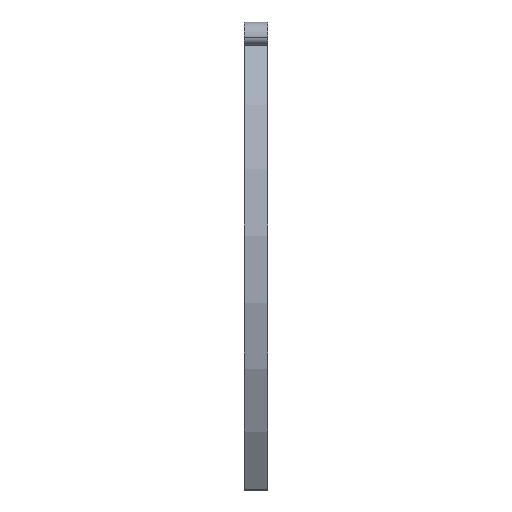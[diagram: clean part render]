
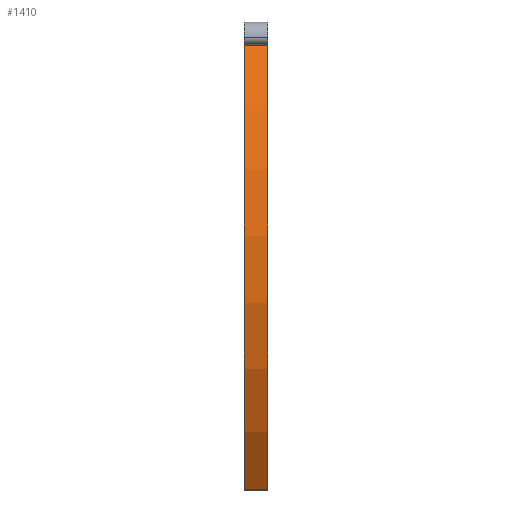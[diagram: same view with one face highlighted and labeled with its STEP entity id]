
A CAD part, front view. The second image highlights one B-rep face of the part: STEP entity #1410.
In plain terms, the highlighted cylindrical face has radius 52.921 mm (diameter 105.841 mm), a partial arc.
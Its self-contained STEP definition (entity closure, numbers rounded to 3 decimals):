
#522 = VERTEX_POINT ( 'NONE', #3814 ) ;
#566 = AXIS2_PLACEMENT_3D ( 'NONE', #2500, #3438, #2516 ) ;
#683 = CARTESIAN_POINT ( 'NONE',  ( 60.16, -27.922, 58. ) ) ;
#951 = FACE_OUTER_BOUND ( 'NONE', #2821, .T. ) ;
#954 = ORIENTED_EDGE ( 'NONE', *, *, #3771, .F. ) ;
#986 = ORIENTED_EDGE ( 'NONE', *, *, #3922, .T. ) ;
#1099 = CYLINDRICAL_SURFACE ( 'NONE', #566, 52.921 ) ;
#1110 = DIRECTION ( 'NONE',  ( -1., 0., 0. ) ) ;
#1113 = AXIS2_PLACEMENT_3D ( 'NONE', #3765, #3808, #2573 ) ;
#1330 = VECTOR ( 'NONE', #3186, 1000. ) ;
#1410 = ADVANCED_FACE ( 'NONE', ( #951 ), #1099, .T. ) ;
#1435 = DIRECTION ( 'NONE',  ( 1., 0., 0. ) ) ;
#1610 = VERTEX_POINT ( 'NONE', #683 ) ;
#1878 = VERTEX_POINT ( 'NONE', #3240 ) ;
#1887 = CARTESIAN_POINT ( 'NONE',  ( 60.16, -25.955, 0. ) ) ;
#2336 = VECTOR ( 'NONE', #1110, 1000. ) ;
#2340 = CARTESIAN_POINT ( 'NONE',  ( 60.16, 17.292, 30.5 ) ) ;
#2354 = DIRECTION ( 'NONE',  ( 0., 0., -1. ) ) ;
#2438 = ORIENTED_EDGE ( 'NONE', *, *, #3296, .T. ) ;
#2500 = CARTESIAN_POINT ( 'NONE',  ( 63.16, 17.292, 30.5 ) ) ;
#2516 = DIRECTION ( 'NONE',  ( 0., 0., 1. ) ) ;
#2570 = CARTESIAN_POINT ( 'NONE',  ( 63.16, -27.922, 58. ) ) ;
#2573 = DIRECTION ( 'NONE',  ( 0., 0., -1. ) ) ;
#2645 = CARTESIAN_POINT ( 'NONE',  ( 63.16, -25.955, 0. ) ) ;
#2821 = EDGE_LOOP ( 'NONE', ( #986, #3187, #954, #2438 ) ) ;
#2945 = AXIS2_PLACEMENT_3D ( 'NONE', #2340, #1435, #2354 ) ;
#3003 = CIRCLE ( 'NONE', #1113, 52.921 ) ;
#3147 = LINE ( 'NONE', #2645, #2336 ) ;
#3186 = DIRECTION ( 'NONE',  ( -1., 0., 0. ) ) ;
#3187 = ORIENTED_EDGE ( 'NONE', *, *, #3962, .F. ) ;
#3240 = CARTESIAN_POINT ( 'NONE',  ( 63.16, -25.955, 0. ) ) ;
#3296 = EDGE_CURVE ( 'NONE', #522, #1610, #3441, .T. ) ;
#3438 = DIRECTION ( 'NONE',  ( -1., 0., 0. ) ) ;
#3441 = LINE ( 'NONE', #2570, #1330 ) ;
#3690 = VERTEX_POINT ( 'NONE', #1887 ) ;
#3765 = CARTESIAN_POINT ( 'NONE',  ( 63.16, 17.292, 30.5 ) ) ;
#3771 = EDGE_CURVE ( 'NONE', #522, #1878, #3003, .T. ) ;
#3808 = DIRECTION ( 'NONE',  ( 1., 0., 0. ) ) ;
#3814 = CARTESIAN_POINT ( 'NONE',  ( 63.16, -27.922, 58. ) ) ;
#3909 = CIRCLE ( 'NONE', #2945, 52.921 ) ;
#3922 = EDGE_CURVE ( 'NONE', #1610, #3690, #3909, .T. ) ;
#3962 = EDGE_CURVE ( 'NONE', #1878, #3690, #3147, .T. ) ;
